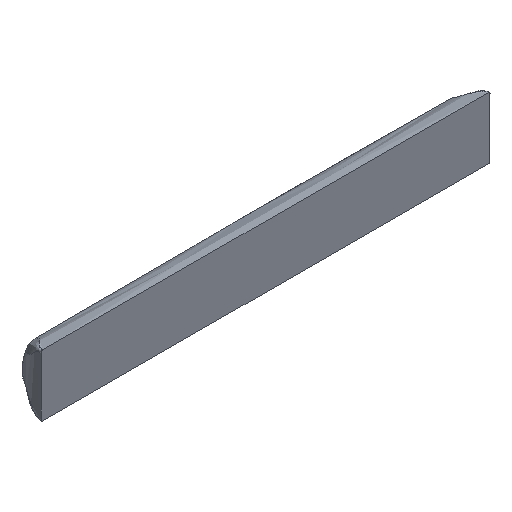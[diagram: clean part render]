
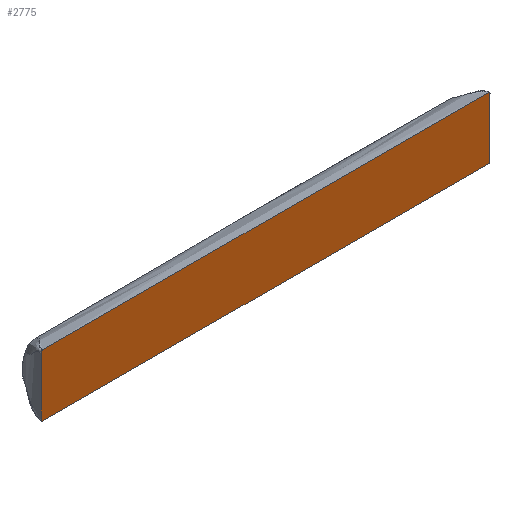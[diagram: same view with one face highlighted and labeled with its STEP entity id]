
A CAD part, isometric view. The second image highlights one B-rep face of the part: STEP entity #2775.
In plain terms, the highlighted planar face has unit normal (0, -1, 0).
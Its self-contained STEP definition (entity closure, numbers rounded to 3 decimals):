
#56 = CARTESIAN_POINT ( 'NONE',  ( 66.083, 0., 9.1 ) ) ;
#57 = VERTEX_POINT ( 'NONE', #977 ) ;
#70 = CARTESIAN_POINT ( 'NONE',  ( 65.75, 0., -9.1 ) ) ;
#90 = LINE ( 'NONE', #355, #1875 ) ;
#125 = VECTOR ( 'NONE', #2503, 1000. ) ;
#229 = CARTESIAN_POINT ( 'NONE',  ( -65.75, 0., 9.1 ) ) ;
#240 = CARTESIAN_POINT ( 'NONE',  ( -66.25, 0., 8.933 ) ) ;
#320 = VERTEX_POINT ( 'NONE', #1151 ) ;
#355 = CARTESIAN_POINT ( 'NONE',  ( 66.25, 0., 9.1 ) ) ;
#367 = CARTESIAN_POINT ( 'NONE',  ( 0., 0., 0. ) ) ;
#387 = DIRECTION ( 'NONE',  ( 1., 0., 0. ) ) ;
#407 = EDGE_CURVE ( 'NONE', #1653, #2618, #2292, .T. ) ;
#452 = CARTESIAN_POINT ( 'NONE',  ( -66.25, 0., -8.933 ) ) ;
#581 = CARTESIAN_POINT ( 'NONE',  ( -66.25, 0., 8.6 ) ) ;
#654 = CARTESIAN_POINT ( 'NONE',  ( -65.75, 0., -9.1 ) ) ;
#714 = CARTESIAN_POINT ( 'NONE',  ( 66.25, 0., -8.6 ) ) ;
#753 = EDGE_LOOP ( 'NONE', ( #3083, #2305, #3113, #1918, #1666, #769, #1901, #1183 ) ) ;
#762 = EDGE_CURVE ( 'NONE', #1653, #960, #1570, .T. ) ;
#769 = ORIENTED_EDGE ( 'NONE', *, *, #2447, .T. ) ;
#915 = VERTEX_POINT ( 'NONE', #1876 ) ;
#957 = EDGE_CURVE ( 'NONE', #915, #960, #2633, .T. ) ;
#960 = VERTEX_POINT ( 'NONE', #654 ) ;
#977 = CARTESIAN_POINT ( 'NONE',  ( -66.25, 0., 8.6 ) ) ;
#1017 = CARTESIAN_POINT ( 'NONE',  ( 66.083, 0., -9.1 ) ) ;
#1034 = B_SPLINE_CURVE_WITH_KNOTS ( 'NONE', 3,
 ( #1429, #2397, #240, #581 ),
 .UNSPECIFIED., .F., .F.,
 ( 4, 4 ),
 ( 0., 1. ),
 .UNSPECIFIED. ) ;
#1054 = LINE ( 'NONE', #2981, #2437 ) ;
#1078 = EDGE_CURVE ( 'NONE', #3003, #2618, #1054, .T. ) ;
#1151 = CARTESIAN_POINT ( 'NONE',  ( 65.75, 0., 9.1 ) ) ;
#1183 = ORIENTED_EDGE ( 'NONE', *, *, #2525, .T. ) ;
#1223 = CARTESIAN_POINT ( 'NONE',  ( 65.75, 0., -9.1 ) ) ;
#1262 = FACE_OUTER_BOUND ( 'NONE', #753, .T. ) ;
#1290 = CARTESIAN_POINT ( 'NONE',  ( -66.25, 0., -9.1 ) ) ;
#1321 = DIRECTION ( 'NONE',  ( 0., 0., -1. ) ) ;
#1404 = CARTESIAN_POINT ( 'NONE',  ( -66.083, 0., -9.1 ) ) ;
#1429 = CARTESIAN_POINT ( 'NONE',  ( -65.75, 0., 9.1 ) ) ;
#1476 = CARTESIAN_POINT ( 'NONE',  ( 66.25, 0., 8.6 ) ) ;
#1570 = LINE ( 'NONE', #2314, #125 ) ;
#1573 = DIRECTION ( 'NONE',  ( 0., -1., 0. ) ) ;
#1632 = VECTOR ( 'NONE', #2281, 1000. ) ;
#1650 = EDGE_CURVE ( 'NONE', #915, #57, #2760, .T. ) ;
#1653 = VERTEX_POINT ( 'NONE', #70 ) ;
#1666 = ORIENTED_EDGE ( 'NONE', *, *, #1078, .F. ) ;
#1698 = CARTESIAN_POINT ( 'NONE',  ( 66.25, 0., 8.933 ) ) ;
#1712 = CARTESIAN_POINT ( 'NONE',  ( 66.25, 0., -8.6 ) ) ;
#1720 = CARTESIAN_POINT ( 'NONE',  ( 66.25, 0., -8.933 ) ) ;
#1755 = DIRECTION ( 'NONE',  ( 0., 0., -1. ) ) ;
#1875 = VECTOR ( 'NONE', #387, 1000. ) ;
#1876 = CARTESIAN_POINT ( 'NONE',  ( -66.25, 0., -8.6 ) ) ;
#1901 = ORIENTED_EDGE ( 'NONE', *, *, #2214, .F. ) ;
#1918 = ORIENTED_EDGE ( 'NONE', *, *, #407, .T. ) ;
#2033 = AXIS2_PLACEMENT_3D ( 'NONE', #367, #1573, #1321 ) ;
#2112 = VERTEX_POINT ( 'NONE', #229 ) ;
#2160 = B_SPLINE_CURVE_WITH_KNOTS ( 'NONE', 3,
 ( #2208, #1698, #56, #2630 ),
 .UNSPECIFIED., .F., .F.,
 ( 4, 4 ),
 ( 0., 1. ),
 .UNSPECIFIED. ) ;
#2208 = CARTESIAN_POINT ( 'NONE',  ( 66.25, 0., 8.6 ) ) ;
#2214 = EDGE_CURVE ( 'NONE', #2112, #320, #90, .T. ) ;
#2281 = DIRECTION ( 'NONE',  ( 0., 0., 1. ) ) ;
#2292 = B_SPLINE_CURVE_WITH_KNOTS ( 'NONE', 3,
 ( #1223, #1017, #1720, #714 ),
 .UNSPECIFIED., .F., .F.,
 ( 4, 4 ),
 ( 0., 1. ),
 .UNSPECIFIED. ) ;
#2305 = ORIENTED_EDGE ( 'NONE', *, *, #957, .T. ) ;
#2314 = CARTESIAN_POINT ( 'NONE',  ( 66.25, 0., -9.1 ) ) ;
#2397 = CARTESIAN_POINT ( 'NONE',  ( -66.083, 0., 9.1 ) ) ;
#2437 = VECTOR ( 'NONE', #1755, 1000. ) ;
#2447 = EDGE_CURVE ( 'NONE', #3003, #320, #2160, .T. ) ;
#2503 = DIRECTION ( 'NONE',  ( -1., 0., 0. ) ) ;
#2525 = EDGE_CURVE ( 'NONE', #2112, #57, #1034, .T. ) ;
#2618 = VERTEX_POINT ( 'NONE', #1712 ) ;
#2630 = CARTESIAN_POINT ( 'NONE',  ( 65.75, 0., 9.1 ) ) ;
#2633 = B_SPLINE_CURVE_WITH_KNOTS ( 'NONE', 3,
 ( #3086, #452, #1404, #2865 ),
 .UNSPECIFIED., .F., .F.,
 ( 4, 4 ),
 ( 0., 1. ),
 .UNSPECIFIED. ) ;
#2728 = PLANE ( 'NONE',  #2033 ) ;
#2760 = LINE ( 'NONE', #1290, #1632 ) ;
#2775 = ADVANCED_FACE ( 'NONE', ( #1262 ), #2728, .T. ) ;
#2865 = CARTESIAN_POINT ( 'NONE',  ( -65.75, 0., -9.1 ) ) ;
#2981 = CARTESIAN_POINT ( 'NONE',  ( 66.25, 0., -9.1 ) ) ;
#3003 = VERTEX_POINT ( 'NONE', #1476 ) ;
#3083 = ORIENTED_EDGE ( 'NONE', *, *, #1650, .F. ) ;
#3086 = CARTESIAN_POINT ( 'NONE',  ( -66.25, 0., -8.6 ) ) ;
#3113 = ORIENTED_EDGE ( 'NONE', *, *, #762, .F. ) ;
